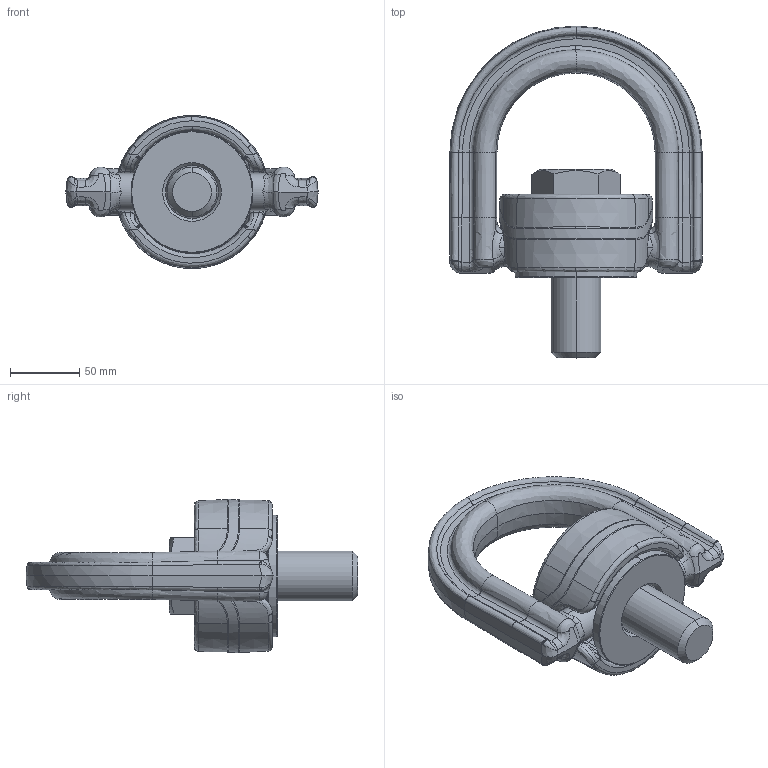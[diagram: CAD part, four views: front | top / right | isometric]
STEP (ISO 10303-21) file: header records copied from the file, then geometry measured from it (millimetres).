
FILE_DESCRIPTION (( 'STEP AP203' ), '1' );
FILE_NAME ('Z101736.step', '2016-04-04T11:14:55', ( '' ), ( '' ), 'SwSTEP 2.0', 'SolidWorks 2008', '' );
FILE_SCHEMA (( 'CONFIG_CONTROL_DESIGN' ));
Length unit declared in the file: millimetre
Products named in the file (6): Z7681236; Z768660; Z101736; Z7760451; Z768025_SMITT; Z768074
Assembly tree (5 placements, depth 2):
  Z101736
    Z768025_SMITT
    Z7760451
    Z768660
    Z768074
    Z7681236
Bounding box: 182 x 239.5 x 110.5 mm (x, y, z)
Volume: 918969 mm3; surface area: 151460.5 mm2
Topology: 5 solids, 5 shells, 474 faces, 1094 edges, 630 vertices
Faces by surface type: bspline 319, plane 63, cylinder 62, cone 26, torus 4
Entity records: 44963 total; most frequent: CARTESIAN_POINT 36416, ORIENTED_EDGE 2174, EDGE_CURVE 1087, DIRECTION 854, B_SPLINE_CURVE_WITH_KNOTS 640, VERTEX_POINT 630, EDGE_LOOP 485, FACE_OUTER_BOUND 474
